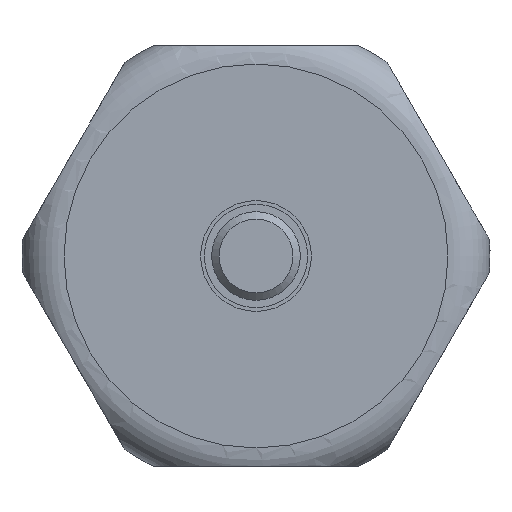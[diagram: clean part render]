
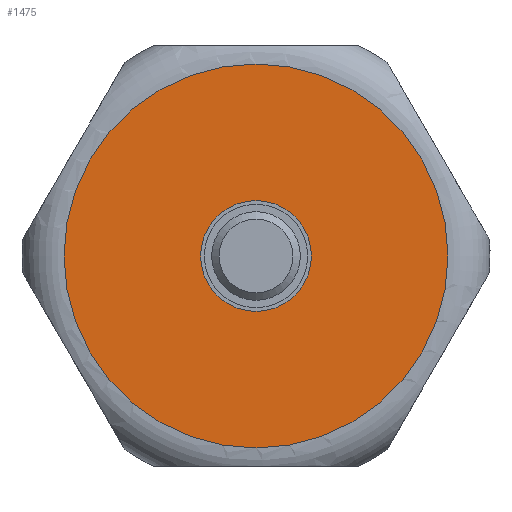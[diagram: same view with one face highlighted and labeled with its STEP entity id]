
A CAD part, left-side view. The second image highlights one B-rep face of the part: STEP entity #1475.
In plain terms, the highlighted planar face has unit normal (-1, 0, 0).
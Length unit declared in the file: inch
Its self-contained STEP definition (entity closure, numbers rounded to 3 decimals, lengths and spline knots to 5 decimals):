
#45=FACE_BOUND('',#340,.T.);
#254=FACE_OUTER_BOUND('',#339,.T.);
#339=EDGE_LOOP('',(#1073,#1074));
#340=EDGE_LOOP('',(#1075,#1076));
#428=CIRCLE('',#1589,0.14764);
#429=CIRCLE('',#1590,0.14764);
#455=CIRCLE('',#1634,0.51181);
#456=CIRCLE('',#1635,0.51181);
#560=VERTEX_POINT('',#2324);
#561=VERTEX_POINT('',#2325);
#600=VERTEX_POINT('',#2585);
#601=VERTEX_POINT('',#2586);
#723=EDGE_CURVE('',#560,#561,#428,.T.);
#724=EDGE_CURVE('',#561,#560,#429,.T.);
#780=EDGE_CURVE('',#600,#601,#455,.T.);
#781=EDGE_CURVE('',#601,#600,#456,.T.);
#1073=ORIENTED_EDGE('',*,*,#780,.F.);
#1074=ORIENTED_EDGE('',*,*,#781,.F.);
#1075=ORIENTED_EDGE('',*,*,#723,.T.);
#1076=ORIENTED_EDGE('',*,*,#724,.T.);
#1338=PLANE('',#1633);
#1475=ADVANCED_FACE('',(#254,#45),#1338,.T.);
#1589=AXIS2_PLACEMENT_3D('',#2326,#1855,#1856);
#1590=AXIS2_PLACEMENT_3D('',#2327,#1857,#1858);
#1633=AXIS2_PLACEMENT_3D('',#2584,#1959,#1960);
#1634=AXIS2_PLACEMENT_3D('',#2587,#1961,#1962);
#1635=AXIS2_PLACEMENT_3D('',#2588,#1963,#1964);
#1855=DIRECTION('center_axis',(1.,0.,0.));
#1856=DIRECTION('ref_axis',(0.,-0.866,0.5));
#1857=DIRECTION('center_axis',(1.,0.,0.));
#1858=DIRECTION('ref_axis',(0.,-0.866,0.5));
#1959=DIRECTION('center_axis',(-1.,0.,0.));
#1960=DIRECTION('ref_axis',(0.,-0.866,0.5));
#1961=DIRECTION('center_axis',(1.,0.,0.));
#1962=DIRECTION('ref_axis',(0.,0.866,-0.5));
#1963=DIRECTION('center_axis',(1.,0.,0.));
#1964=DIRECTION('ref_axis',(0.,0.866,-0.5));
#2324=CARTESIAN_POINT('',(-2.66747,-0.02656,-0.27052));
#2325=CARTESIAN_POINT('',(-2.66747,0.22916,-0.41816));
#2326=CARTESIAN_POINT('Origin',(-2.66747,0.1013,-0.34434));
#2327=CARTESIAN_POINT('Origin',(-2.66747,0.1013,-0.34434));
#2584=CARTESIAN_POINT('Origin',(-2.66747,0.54454,-0.60025));
#2585=CARTESIAN_POINT('',(-2.66747,0.54454,-0.60025));
#2586=CARTESIAN_POINT('',(-2.66747,-0.34194,-0.08844));
#2587=CARTESIAN_POINT('Origin',(-2.66747,0.1013,-0.34434));
#2588=CARTESIAN_POINT('Origin',(-2.66747,0.1013,-0.34434));
